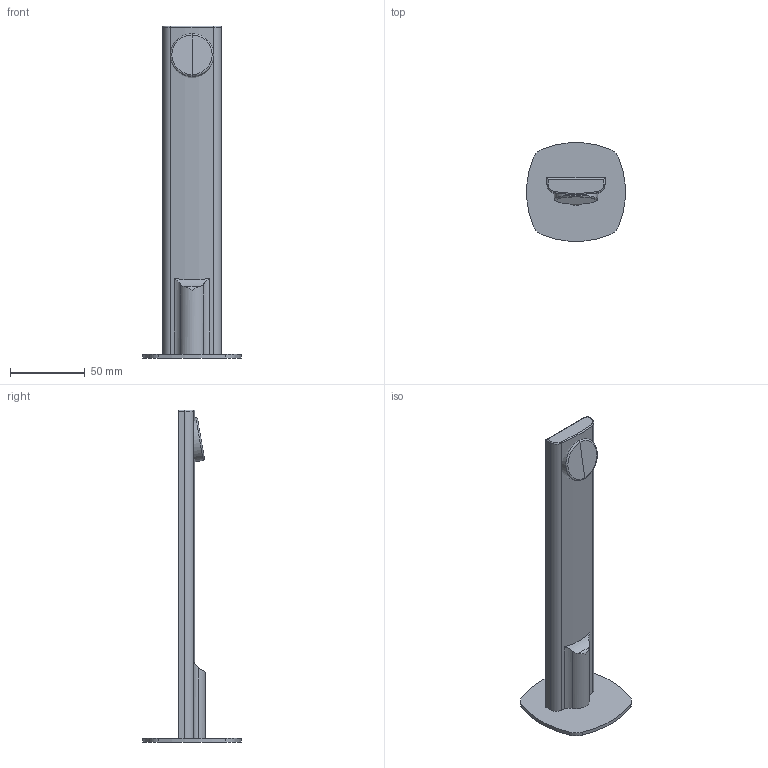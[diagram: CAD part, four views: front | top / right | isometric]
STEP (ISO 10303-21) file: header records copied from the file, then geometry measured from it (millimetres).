
FILE_DESCRIPTION(('FreeCAD Model'),'2;1');
FILE_NAME('Open CASCADE Shape Model','2024-11-19T14:59:10',('Author'),( ''),'Open CASCADE STEP processor 7.6','FreeCAD','Unknown');
FILE_SCHEMA(('AUTOMOTIVE_DESIGN { 1 0 10303 214 1 1 1 1 }'));
Length unit declared in the file: millimetre
Products named in the file (5): TopLevelAssembly; Obrót profilu; Wyciąganie001; Połączona geometria bryłowa; Połączona geometria bryłowa001
Assembly tree (4 placements, depth 2):
  TopLevelAssembly
    Obrót profilu
    Wyciąganie001
    Połączona geometria bryłowa
    Połączona geometria bryłowa001
Bounding box: 65.93 x 65.93 x 222.5 mm (x, y, z)
Volume: 108787.4 mm3; surface area: 34490.4 mm2
Topology: 4 solids, 4 shells, 39 faces, 82 edges, 51 vertices
Faces by surface type: cylinder 22, plane 12, bspline 5
Entity records: 1238 total; most frequent: CARTESIAN_POINT 280, DIRECTION 196, ORIENTED_EDGE 164, AXIS2_PLACEMENT_3D 82, EDGE_CURVE 82, VERTEX_POINT 51, CIRCLE 41, ADVANCED_FACE 39
